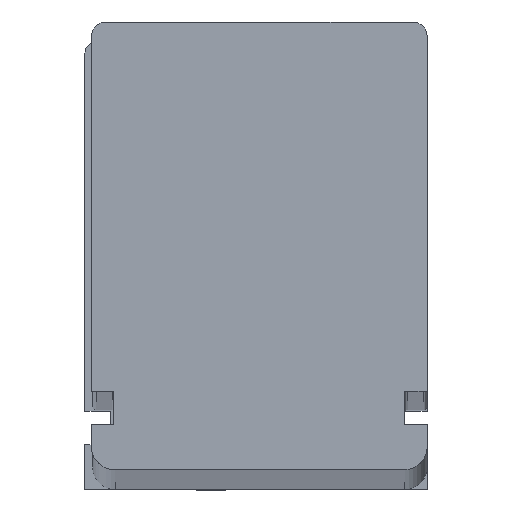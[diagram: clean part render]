
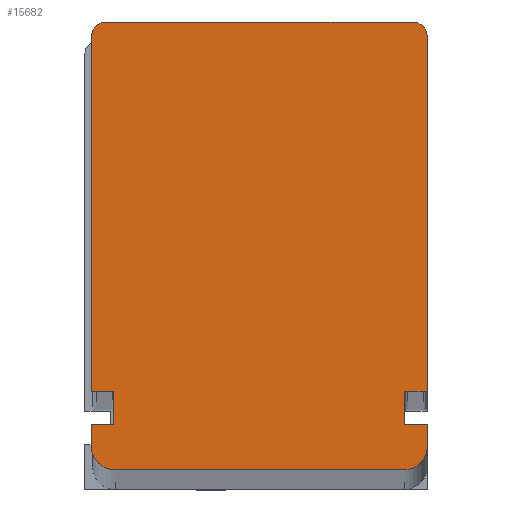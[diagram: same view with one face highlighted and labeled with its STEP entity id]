
A CAD part, top view. The second image highlights one B-rep face of the part: STEP entity #15682.
In plain terms, the highlighted planar face has unit normal (0, 0, 1).
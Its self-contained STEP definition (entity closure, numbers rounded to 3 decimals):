
#275 = LINE ( 'NONE', #16481, #21949 ) ;
#748 = CARTESIAN_POINT ( 'NONE',  ( -13.75, 40., 5.5 ) ) ;
#753 = EDGE_CURVE ( 'NONE', #14062, #10342, #275, .T. ) ;
#781 = LINE ( 'NONE', #23075, #6054 ) ;
#805 = CARTESIAN_POINT ( 'NONE',  ( 15., 7., 5.5 ) ) ;
#886 = CARTESIAN_POINT ( 'NONE',  ( -15., 2., 5.5 ) ) ;
#1222 = CARTESIAN_POINT ( 'NONE',  ( 13.75, 40., 5.5 ) ) ;
#1267 = EDGE_CURVE ( 'NONE', #14738, #6873, #8317, .T. ) ;
#1362 = VECTOR ( 'NONE', #5088, 1000. ) ;
#1421 = EDGE_CURVE ( 'NONE', #28532, #18753, #6230, .T. ) ;
#1554 = VERTEX_POINT ( 'NONE', #11487 ) ;
#1605 = CARTESIAN_POINT ( 'NONE',  ( -13.75, 38.75, 5.5 ) ) ;
#1666 = CARTESIAN_POINT ( 'NONE',  ( 15., 4., 5.5 ) ) ;
#2621 = DIRECTION ( 'NONE',  ( 1., 0., 0. ) ) ;
#2836 = CARTESIAN_POINT ( 'NONE',  ( -13., 7., 5.5 ) ) ;
#3079 = VECTOR ( 'NONE', #16917, 1000. ) ;
#3274 = EDGE_CURVE ( 'NONE', #13852, #24710, #23677, .T. ) ;
#3712 = CARTESIAN_POINT ( 'NONE',  ( 13., 4., 5.5 ) ) ;
#3828 = CIRCLE ( 'NONE', #22326, 1.25 ) ;
#3868 = DIRECTION ( 'NONE',  ( -1., 0., 0. ) ) ;
#3919 = ORIENTED_EDGE ( 'NONE', *, *, #11917, .T. ) ;
#3934 = DIRECTION ( 'NONE',  ( -1., 0., 0. ) ) ;
#4103 = VECTOR ( 'NONE', #2621, 1000. ) ;
#4114 = EDGE_CURVE ( 'NONE', #18395, #7308, #21899, .T. ) ;
#4167 = CARTESIAN_POINT ( 'NONE',  ( -13., 0., 5.5 ) ) ;
#4209 = VECTOR ( 'NONE', #21885, 1000. ) ;
#4355 = DIRECTION ( 'NONE',  ( 1., 0., 0. ) ) ;
#5029 = VERTEX_POINT ( 'NONE', #3712 ) ;
#5088 = DIRECTION ( 'NONE',  ( 1., 0., 0. ) ) ;
#5490 = DIRECTION ( 'NONE',  ( 0., 0., 1. ) ) ;
#5524 = VECTOR ( 'NONE', #8645, 1000. ) ;
#5591 = CIRCLE ( 'NONE', #13140, 2. ) ;
#5902 = VECTOR ( 'NONE', #19291, 1000. ) ;
#6038 = DIRECTION ( 'NONE',  ( 0., 0., 1. ) ) ;
#6054 = VECTOR ( 'NONE', #12169, 1000. ) ;
#6230 = LINE ( 'NONE', #4167, #5524 ) ;
#6293 = CARTESIAN_POINT ( 'NONE',  ( -13., 4., 5.5 ) ) ;
#6743 = AXIS2_PLACEMENT_3D ( 'NONE', #8118, #23709, #10351 ) ;
#6863 = CARTESIAN_POINT ( 'NONE',  ( 13.75, 40., 5.5 ) ) ;
#6873 = VERTEX_POINT ( 'NONE', #748 ) ;
#7197 = ORIENTED_EDGE ( 'NONE', *, *, #25448, .T. ) ;
#7308 = VERTEX_POINT ( 'NONE', #805 ) ;
#7318 = LINE ( 'NONE', #2836, #1362 ) ;
#7399 = VERTEX_POINT ( 'NONE', #17079 ) ;
#7560 = DIRECTION ( 'NONE',  ( 0., -1., 0. ) ) ;
#7829 = CARTESIAN_POINT ( 'NONE',  ( 13., 0., 5.5 ) ) ;
#8118 = CARTESIAN_POINT ( 'NONE',  ( -13., 2., 5.5 ) ) ;
#8317 = LINE ( 'NONE', #1222, #3079 ) ;
#8645 = DIRECTION ( 'NONE',  ( 1., 0., 0. ) ) ;
#8767 = EDGE_CURVE ( 'NONE', #10342, #1554, #7318, .T. ) ;
#9233 = LINE ( 'NONE', #1666, #14497 ) ;
#10342 = VERTEX_POINT ( 'NONE', #19528 ) ;
#10351 = DIRECTION ( 'NONE',  ( -1., 0., 0. ) ) ;
#10475 = DIRECTION ( 'NONE',  ( 0., 1., 0. ) ) ;
#10747 = EDGE_CURVE ( 'NONE', #18753, #28817, #5591, .T. ) ;
#10961 = ORIENTED_EDGE ( 'NONE', *, *, #27614, .T. ) ;
#11400 = EDGE_LOOP ( 'NONE', ( #28492, #27203, #21822, #22216, #16886, #25431, #19453, #28849, #3919, #26716, #11423, #10961, #17869, #7197, #17815, #24236 ) ) ;
#11423 = ORIENTED_EDGE ( 'NONE', *, *, #8767, .T. ) ;
#11487 = CARTESIAN_POINT ( 'NONE',  ( -13., 7., 5.5 ) ) ;
#11917 = EDGE_CURVE ( 'NONE', #6873, #14062, #3828, .T. ) ;
#12169 = DIRECTION ( 'NONE',  ( 0., 1., 0. ) ) ;
#12473 = DIRECTION ( 'NONE',  ( 0., -1., 0. ) ) ;
#13140 = AXIS2_PLACEMENT_3D ( 'NONE', #19393, #6038, #21627 ) ;
#13284 = CIRCLE ( 'NONE', #6743, 2. ) ;
#13660 = EDGE_CURVE ( 'NONE', #28817, #7399, #19452, .T. ) ;
#13852 = VERTEX_POINT ( 'NONE', #27107 ) ;
#14026 = VECTOR ( 'NONE', #12473, 1000. ) ;
#14062 = VERTEX_POINT ( 'NONE', #16923 ) ;
#14497 = VECTOR ( 'NONE', #3934, 1000. ) ;
#14633 = VERTEX_POINT ( 'NONE', #15214 ) ;
#14738 = VERTEX_POINT ( 'NONE', #6863 ) ;
#15214 = CARTESIAN_POINT ( 'NONE',  ( 15., 38.75, 5.5 ) ) ;
#15524 = PLANE ( 'NONE',  #17237 ) ;
#15682 = ADVANCED_FACE ( 'NONE', ( #23514 ), #15524, .T. ) ;
#15773 = VECTOR ( 'NONE', #27157, 1000. ) ;
#16121 = LINE ( 'NONE', #6293, #4209 ) ;
#16357 = EDGE_CURVE ( 'NONE', #5029, #18395, #781, .T. ) ;
#16481 = CARTESIAN_POINT ( 'NONE',  ( -15., 7., 5.5 ) ) ;
#16810 = CIRCLE ( 'NONE', #19277, 1.25 ) ;
#16886 = ORIENTED_EDGE ( 'NONE', *, *, #4114, .T. ) ;
#16917 = DIRECTION ( 'NONE',  ( -1., 0., 0. ) ) ;
#16923 = CARTESIAN_POINT ( 'NONE',  ( -15., 38.75, 5.5 ) ) ;
#17079 = CARTESIAN_POINT ( 'NONE',  ( 15., 4., 5.5 ) ) ;
#17237 = AXIS2_PLACEMENT_3D ( 'NONE', #17577, #17759, #4355 ) ;
#17289 = DIRECTION ( 'NONE',  ( 0., 0., 1. ) ) ;
#17577 = CARTESIAN_POINT ( 'NONE',  ( 13., 2., 5.5 ) ) ;
#17723 = CARTESIAN_POINT ( 'NONE',  ( -15., 4., 5.5 ) ) ;
#17759 = DIRECTION ( 'NONE',  ( 0., 0., 1. ) ) ;
#17815 = ORIENTED_EDGE ( 'NONE', *, *, #18828, .T. ) ;
#17869 = ORIENTED_EDGE ( 'NONE', *, *, #3274, .T. ) ;
#18395 = VERTEX_POINT ( 'NONE', #21992 ) ;
#18677 = EDGE_CURVE ( 'NONE', #14633, #14738, #16810, .T. ) ;
#18753 = VERTEX_POINT ( 'NONE', #7829 ) ;
#18828 = EDGE_CURVE ( 'NONE', #20082, #28532, #13284, .T. ) ;
#18849 = CARTESIAN_POINT ( 'NONE',  ( 13.75, 38.75, 5.5 ) ) ;
#19277 = AXIS2_PLACEMENT_3D ( 'NONE', #18849, #5490, #21077 ) ;
#19291 = DIRECTION ( 'NONE',  ( -1., 0., 0. ) ) ;
#19393 = CARTESIAN_POINT ( 'NONE',  ( 13., 2., 5.5 ) ) ;
#19452 = LINE ( 'NONE', #23832, #26062 ) ;
#19453 = ORIENTED_EDGE ( 'NONE', *, *, #18677, .T. ) ;
#19528 = CARTESIAN_POINT ( 'NONE',  ( -15., 7., 5.5 ) ) ;
#20082 = VERTEX_POINT ( 'NONE', #886 ) ;
#21077 = DIRECTION ( 'NONE',  ( 1., 0., 0. ) ) ;
#21627 = DIRECTION ( 'NONE',  ( 1., 0., 0. ) ) ;
#21822 = ORIENTED_EDGE ( 'NONE', *, *, #22841, .T. ) ;
#21885 = DIRECTION ( 'NONE',  ( 0., -1., 0. ) ) ;
#21899 = LINE ( 'NONE', #24850, #4103 ) ;
#21949 = VECTOR ( 'NONE', #7560, 1000. ) ;
#21992 = CARTESIAN_POINT ( 'NONE',  ( 13., 7., 5.5 ) ) ;
#22216 = ORIENTED_EDGE ( 'NONE', *, *, #16357, .T. ) ;
#22326 = AXIS2_PLACEMENT_3D ( 'NONE', #1605, #17289, #3868 ) ;
#22841 = EDGE_CURVE ( 'NONE', #7399, #5029, #9233, .T. ) ;
#23075 = CARTESIAN_POINT ( 'NONE',  ( 13., 4., 5.5 ) ) ;
#23514 = FACE_OUTER_BOUND ( 'NONE', #11400, .T. ) ;
#23566 = CARTESIAN_POINT ( 'NONE',  ( -15., 2., 5.5 ) ) ;
#23677 = LINE ( 'NONE', #28145, #5902 ) ;
#23709 = DIRECTION ( 'NONE',  ( 0., 0., 1. ) ) ;
#23794 = CARTESIAN_POINT ( 'NONE',  ( -13., 0., 5.5 ) ) ;
#23832 = CARTESIAN_POINT ( 'NONE',  ( 15., 2., 5.5 ) ) ;
#24236 = ORIENTED_EDGE ( 'NONE', *, *, #1421, .T. ) ;
#24710 = VERTEX_POINT ( 'NONE', #17723 ) ;
#24850 = CARTESIAN_POINT ( 'NONE',  ( 13., 7., 5.5 ) ) ;
#24887 = CARTESIAN_POINT ( 'NONE',  ( 15., 7., 5.5 ) ) ;
#25012 = CARTESIAN_POINT ( 'NONE',  ( 15., 2., 5.5 ) ) ;
#25431 = ORIENTED_EDGE ( 'NONE', *, *, #25757, .T. ) ;
#25448 = EDGE_CURVE ( 'NONE', #24710, #20082, #25837, .T. ) ;
#25757 = EDGE_CURVE ( 'NONE', #7308, #14633, #28290, .T. ) ;
#25837 = LINE ( 'NONE', #23566, #14026 ) ;
#26062 = VECTOR ( 'NONE', #10475, 1000. ) ;
#26716 = ORIENTED_EDGE ( 'NONE', *, *, #753, .T. ) ;
#27107 = CARTESIAN_POINT ( 'NONE',  ( -13., 4., 5.5 ) ) ;
#27157 = DIRECTION ( 'NONE',  ( 0., 1., 0. ) ) ;
#27203 = ORIENTED_EDGE ( 'NONE', *, *, #13660, .T. ) ;
#27614 = EDGE_CURVE ( 'NONE', #1554, #13852, #16121, .T. ) ;
#28145 = CARTESIAN_POINT ( 'NONE',  ( -15., 4., 5.5 ) ) ;
#28290 = LINE ( 'NONE', #24887, #15773 ) ;
#28492 = ORIENTED_EDGE ( 'NONE', *, *, #10747, .T. ) ;
#28532 = VERTEX_POINT ( 'NONE', #23794 ) ;
#28817 = VERTEX_POINT ( 'NONE', #25012 ) ;
#28849 = ORIENTED_EDGE ( 'NONE', *, *, #1267, .T. ) ;
